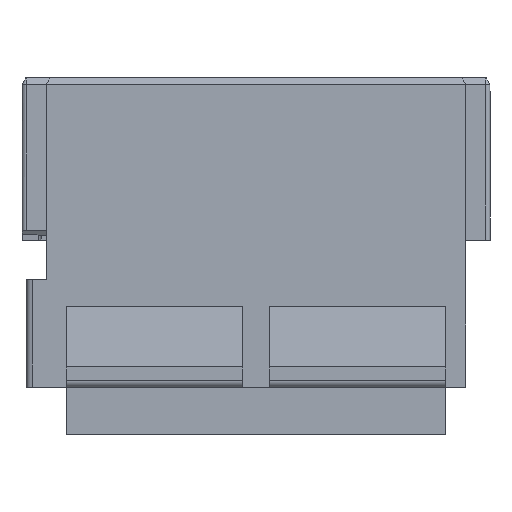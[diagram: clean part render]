
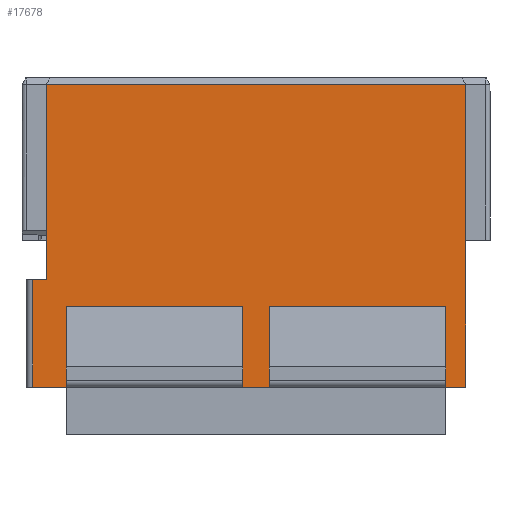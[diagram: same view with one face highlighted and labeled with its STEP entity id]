
A CAD part, front view. The second image highlights one B-rep face of the part: STEP entity #17678.
In plain terms, the highlighted planar face has unit normal (0, -1, 0).
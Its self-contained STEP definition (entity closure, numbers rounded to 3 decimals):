
#5135=DIRECTION('',(1.,0.,0.));
#5136=VECTOR('',#5135,2.);
#5137=CARTESIAN_POINT('',(-1.,-9.1,-23.));
#5138=LINE('',#5137,#5136);
#5147=DIRECTION('',(-1.,0.,0.));
#5148=VECTOR('',#5147,1.5);
#5149=CARTESIAN_POINT('',(15.6,-9.1,-23.));
#5150=LINE('',#5149,#5148);
#5973=DIRECTION('',(1.,0.,0.));
#5974=VECTOR('',#5973,31.2);
#5975=CARTESIAN_POINT('',(-15.6,-9.1,-0.5));
#5976=LINE('',#5975,#5974);
#5977=DIRECTION('',(0.,0.,-1.));
#5978=VECTOR('',#5977,22.5);
#5979=CARTESIAN_POINT('',(15.6,-9.1,-0.5));
#5980=LINE('',#5979,#5978);
#5981=DIRECTION('',(0.,0.,1.));
#5982=VECTOR('',#5981,6.);
#5983=CARTESIAN_POINT('',(14.1,-9.1,-23.));
#5984=LINE('',#5983,#5982);
#5985=DIRECTION('',(-1.,0.,0.));
#5986=VECTOR('',#5985,13.1);
#5987=CARTESIAN_POINT('',(14.1,-9.1,-17.));
#5988=LINE('',#5987,#5986);
#5989=DIRECTION('',(0.,0.,1.));
#5990=VECTOR('',#5989,6.);
#5991=CARTESIAN_POINT('',(-1.,-9.1,-23.));
#5992=LINE('',#5991,#5990);
#5993=DIRECTION('',(-1.,0.,0.));
#5994=VECTOR('',#5993,13.1);
#5995=CARTESIAN_POINT('',(-1.,-9.1,-17.));
#5996=LINE('',#5995,#5994);
#5997=DIRECTION('',(-1.,0.,0.));
#5998=VECTOR('',#5997,2.5);
#5999=CARTESIAN_POINT('',(-14.1,-9.1,-23.));
#6000=LINE('',#5999,#5998);
#6001=DIRECTION('',(0.,0.,1.));
#6002=VECTOR('',#6001,8.);
#6003=CARTESIAN_POINT('',(-16.6,-9.1,-23.));
#6004=LINE('',#6003,#6002);
#6005=DIRECTION('',(0.,0.,1.));
#6006=VECTOR('',#6005,14.5);
#6007=CARTESIAN_POINT('',(-15.6,-9.1,-15.));
#6008=LINE('',#6007,#6006);
#6022=DIRECTION('',(0.,0.,1.));
#6023=VECTOR('',#6022,6.);
#6024=CARTESIAN_POINT('',(-14.1,-9.1,-23.));
#6025=LINE('',#6024,#6023);
#6108=DIRECTION('',(0.,0.,1.));
#6109=VECTOR('',#6108,6.);
#6110=CARTESIAN_POINT('',(1.,-9.1,-23.));
#6111=LINE('',#6110,#6109);
#6193=DIRECTION('',(1.,0.,0.));
#6194=VECTOR('',#6193,1.);
#6195=CARTESIAN_POINT('',(-16.6,-9.1,-15.));
#6196=LINE('',#6195,#6194);
#6647=CARTESIAN_POINT('',(-14.1,-9.1,-23.));
#6649=VERTEX_POINT('',#6647);
#6651=CARTESIAN_POINT('',(14.1,-9.1,-23.));
#6653=VERTEX_POINT('',#6651);
#6654=CARTESIAN_POINT('',(15.6,-9.1,-23.));
#6655=VERTEX_POINT('',#6654);
#6670=CARTESIAN_POINT('',(-14.1,-9.1,-17.));
#6671=VERTEX_POINT('',#6670);
#6672=CARTESIAN_POINT('',(14.1,-9.1,-17.));
#6673=VERTEX_POINT('',#6672);
#6675=CARTESIAN_POINT('',(-1.,-9.1,-23.));
#6677=VERTEX_POINT('',#6675);
#6678=CARTESIAN_POINT('',(1.,-9.1,-23.));
#6679=VERTEX_POINT('',#6678);
#6686=CARTESIAN_POINT('',(-1.,-9.1,-17.));
#6687=VERTEX_POINT('',#6686);
#6688=CARTESIAN_POINT('',(1.,-9.1,-17.));
#6689=VERTEX_POINT('',#6688);
#6706=CARTESIAN_POINT('',(-15.6,-9.1,-15.));
#6708=VERTEX_POINT('',#6706);
#6716=CARTESIAN_POINT('',(-16.6,-9.1,-15.));
#6717=VERTEX_POINT('',#6716);
#6720=CARTESIAN_POINT('',(-16.6,-9.1,-23.));
#6721=VERTEX_POINT('',#6720);
#8454=CARTESIAN_POINT('',(-15.6,-9.1,-0.5));
#8455=CARTESIAN_POINT('',(15.6,-9.1,-0.5));
#8456=VERTEX_POINT('',#8454);
#8457=VERTEX_POINT('',#8455);
#17649=CARTESIAN_POINT('',(15.6,-9.1,0.));
#17650=DIRECTION('',(0.,-1.,0.));
#17651=DIRECTION('',(-1.,0.,0.));
#17652=AXIS2_PLACEMENT_3D('',#17649,#17650,#17651);
#17653=PLANE('',#17652);
#17654=ORIENTED_EDGE('',*,*,#17641,.T.);
#17655=ORIENTED_EDGE('',*,*,#14325,.T.);
#17656=ORIENTED_EDGE('',*,*,#15780,.T.);
#17658=ORIENTED_EDGE('',*,*,#17657,.T.);
#17660=ORIENTED_EDGE('',*,*,#17659,.T.);
#17662=ORIENTED_EDGE('',*,*,#17661,.F.);
#17663=ORIENTED_EDGE('',*,*,#15772,.F.);
#17665=ORIENTED_EDGE('',*,*,#17664,.T.);
#17667=ORIENTED_EDGE('',*,*,#17666,.T.);
#17669=ORIENTED_EDGE('',*,*,#17668,.F.);
#17670=ORIENTED_EDGE('',*,*,#15764,.T.);
#17672=ORIENTED_EDGE('',*,*,#17671,.T.);
#17674=ORIENTED_EDGE('',*,*,#17673,.T.);
#17675=ORIENTED_EDGE('',*,*,#14652,.T.);
#17676=EDGE_LOOP('',(#17654,#17655,#17656,#17658,#17660,#17662,#17663,#17665,
#17667,#17669,#17670,#17672,#17674,#17675));
#17677=FACE_OUTER_BOUND('',#17676,.F.);
#17678=ADVANCED_FACE('',(#17677),#17653,.T.);
#14325=EDGE_CURVE('',#8457,#6655,#5980,.T.);
#14652=EDGE_CURVE('',#6708,#8456,#6008,.T.);
#15764=EDGE_CURVE('',#6649,#6721,#6000,.T.);
#15772=EDGE_CURVE('',#6677,#6679,#5138,.T.);
#15780=EDGE_CURVE('',#6655,#6653,#5150,.T.);
#17641=EDGE_CURVE('',#8456,#8457,#5976,.T.);
#17657=EDGE_CURVE('',#6653,#6673,#5984,.T.);
#17659=EDGE_CURVE('',#6673,#6689,#5988,.T.);
#17661=EDGE_CURVE('',#6679,#6689,#6111,.T.);
#17664=EDGE_CURVE('',#6677,#6687,#5992,.T.);
#17666=EDGE_CURVE('',#6687,#6671,#5996,.T.);
#17668=EDGE_CURVE('',#6649,#6671,#6025,.T.);
#17671=EDGE_CURVE('',#6721,#6717,#6004,.T.);
#17673=EDGE_CURVE('',#6717,#6708,#6196,.T.);
